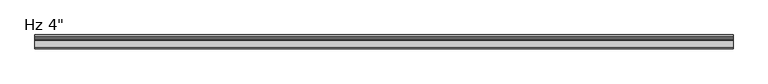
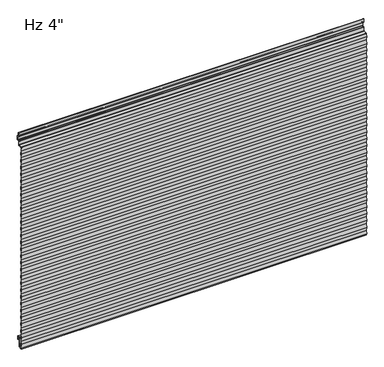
"""IFC4 building model written with IfcOpenShell, lengths in millimetres: plate geometry."""

from ifc_helpers import new_model, si_unit, point, frame, origin, place, context, project, spatial, polyline, circle_curve, ellipse_curve, trimmed, source, transform, mapped, element, save
from ifc_brep_helpers import plane_surface, cylinder_surface, revolved_surface, extruded_surface, advanced_brep


def plate_5e6ddfeb(model_context):
    return source(origin(), model_context, "Body", "AdvancedBrep", [
        advanced_brep(
        [(-730.0, -76.2, -23.2314549), (-730.0, -77.7875, -23.2314549), (-730.0, -77.7875, -11.9205174), (-730.0, -85.725, -11.9205174), (-730.0, -85.725, -50.1038221), (-730.0, -87.981625, -52.4818086), (-730.0, -102.1543553, -53.22457), (-730.0, -102.8509395, -48.8709186), (-730.0, -100.4125395, -33.6309186), (-730.0, -102.8509395, -18.3909186), (-730.0, -100.4125395, -3.1509186), (-730.0, -102.8509395, 12.0890814), (-730.0, -100.4125395, 27.3290814), (-730.0, -102.8509395, 42.5690814), (-730.0, -100.4125395, 57.8090814), (-730.0, -102.8509395, 73.0490814), (-730.0, -100.4125395, 88.2890814), (-730.0, -102.8509395, 103.5290814), (-730.0, -100.4125395, 118.7690814), (-730.0, -102.8509395, 134.0090814), (-730.0, -100.4125395, 149.2490814), (-730.0, -102.8509395, 164.4890814), (-730.0, -100.4125395, 179.7290814), (-730.0, -102.8509395, 194.9690814), (-730.0, -100.4125395, 210.2090814), (-730.0, -102.8509395, 225.4490814), (-730.0, -100.4125395, 240.6890814), (-730.0, -102.8509395, 255.9290814), (-730.0, -100.4125395, 271.1690814), (-730.0, -102.8509395, 286.4090814), (-730.0, -100.4125395, 301.6490814), (-730.0, -102.8509395, 316.8890814), (-730.0, -100.4125395, 332.1290814), (-730.0, -102.8509395, 347.3690814), (-730.0, -100.4125395, 362.6090814), (-730.0, -102.8509395, 377.8490814), (-730.0, -100.4125395, 393.0890814), (-730.0, -102.8509395, 408.3290814), (-730.0, -100.4125395, 423.5690814), (-730.0, -102.8509395, 438.8090814), (-730.0, -100.4125395, 454.0490814), (-730.0, -102.8509395, 469.2890814), (-730.0, -100.4125395, 484.5290814), (-730.0, -102.8509395, 499.7690814), (-730.0, -100.4125395, 515.0090814), (-730.0, -102.8509395, 530.2490814), (-730.0, -100.4125395, 545.4890814), (-730.0, -102.8509395, 560.7290814), (-730.0, -100.4125395, 575.9690814), (-730.0, -102.8509395, 591.2090814), (-730.0, -100.4125395, 606.4490814), (-730.0, -102.8509395, 621.6890814), (-730.0, -100.4125395, 636.9290814), (-730.0, -102.8509395, 652.1690814), (-730.0, -100.4125395, 667.4090814), (-730.0, -102.8509395, 682.6490814), (-730.0, -100.4125395, 697.8890814), (-730.0, -102.8509395, 713.1290814), (-730.0, -100.4125395, 728.3690814), (-730.0, -102.8509395, 743.6090814), (-730.0, -100.4125395, 758.8490814), (-730.0, -102.8509395, 774.0890814), (-730.0, -100.4125395, 789.3290814), (-730.0, -102.8509395, 804.5690814), (-730.0, -100.4125395, 819.8090814), (-730.0, -102.8185287, 834.8465139), (-730.0, -100.8278537, 847.2882328), (-730.0, -99.343375, 848.6227473), (-730.0, -85.6419167, 849.3408103), (-730.0, -84.1375, 850.9261347), (-730.0, -84.1375, 865.0824411), (-730.0, -81.880875, 867.4604276), (-730.0, -76.1169167, 867.7625039), (-730.0, -74.6125, 869.3478283), (-730.0, -74.6125, 884.2232326), (-730.0, -76.2, 885.8107326), (-730.0, -80.3671875, 885.8107326), (-730.0, -82.7484375, 888.1919826), (-730.0, -82.7484375, 902.6836032), (-730.0, -80.9546875, 902.6836032), (-730.0, -80.9546875, 892.9544826), (-730.0, -81.7484375, 892.9544826), (-730.0, -81.7484375, 888.1919826), (-730.0, -80.3671875, 886.8107326), (-730.0, -76.2, 886.8107326), (-730.0, -73.6125, 884.2232326), (-730.0, -73.6125, 869.3478283), (-730.0, -76.0645807, 866.7638744), (-730.0, -81.828539, 866.4617981), (-730.0, -83.1375, 865.0824411), (-730.0, -83.1375, 850.9261347), (-730.0, -85.5895807, 848.3421807), (-730.0, -99.291039, 847.6241177), (-730.0, -99.840413, 847.1302423), (-730.0, -101.8058096, 834.8465139), (-730.0, -99.3998204, 819.8090814), (-730.0, -101.8382204, 804.5690814), (-730.0, -99.3998204, 789.3290814), (-730.0, -101.8382204, 774.0890814), (-730.0, -99.3998204, 758.8490814), (-730.0, -101.8382204, 743.6090814), (-730.0, -99.3998204, 728.3690814), (-730.0, -101.8382204, 713.1290814), (-730.0, -99.3998204, 697.8890814), (-730.0, -101.8382204, 682.6490814), (-730.0, -99.3998204, 667.4090814), (-730.0, -101.8382204, 652.1690814), (-730.0, -99.3998204, 636.9290814), (-730.0, -101.8382204, 621.6890814), (-730.0, -99.3998204, 606.4490814), (-730.0, -101.8382204, 591.2090814), (-730.0, -99.3998204, 575.9690814), (-730.0, -101.8382204, 560.7290814), (-730.0, -99.3998204, 545.4890814), (-730.0, -101.8382204, 530.2490814), (-730.0, -99.3998204, 515.0090814), (-730.0, -101.8382204, 499.7690814), (-730.0, -99.3998204, 484.5290814), (-730.0, -101.8382204, 469.2890814), (-730.0, -99.3998204, 454.0490814), (-730.0, -101.8382204, 438.8090814), (-730.0, -99.3998204, 423.5690814), (-730.0, -101.8382204, 408.3290814), (-730.0, -99.3998204, 393.0890814), (-730.0, -101.8382204, 377.8490814), (-730.0, -99.3998204, 362.6090814), (-730.0, -101.8382204, 347.3690814), (-730.0, -99.3998204, 332.1290814), (-730.0, -101.8382204, 316.8890814), (-730.0, -99.3998204, 301.6490814), (-730.0, -101.8382204, 286.4090814), (-730.0, -99.3998204, 271.1690814), (-730.0, -101.8382204, 255.9290814), (-730.0, -99.3998204, 240.6890814), (-730.0, -101.8382204, 225.4490814), (-730.0, -99.3998204, 210.2090814), (-730.0, -101.8382204, 194.9690814), (-730.0, -99.3998204, 179.7290814), (-730.0, -101.8382204, 164.4890814), (-730.0, -99.3998204, 149.2490814), (-730.0, -101.8382204, 134.0090814), (-730.0, -99.3998204, 118.7690814), (-730.0, -101.8382204, 103.5290814), (-730.0, -99.3998204, 88.2890814), (-730.0, -101.8382204, 73.0490814), (-730.0, -99.3998204, 57.8090814), (-730.0, -101.8382204, 42.5690814), (-730.0, -99.3998204, 27.3290814), (-730.0, -101.8382204, 12.0890814), (-730.0, -99.3998204, -3.1509186), (-730.0, -101.8382204, -18.3909186), (-730.0, -99.3998204, -33.6309186), (-730.0, -101.8382204, -48.8709186), (-730.0, -101.3089447, -52.1788915), (-730.0, -88.033961, -51.4831791), (-730.0, -86.725, -50.1038221), (-730.0, -86.725, -11.9205174), (-730.0, -76.7875, -11.9205174), (-730.0, -76.99375, -13.5080174), (-730.0, -76.2, -13.5080174), (730.0, -76.2, -23.2314549), (730.0, -76.2, -13.5080174), (730.0, -76.99375, -13.5080174), (730.0, -76.7875, -11.9205174), (730.0, -86.725, -11.9205174), (730.0, -86.725, -50.1038221), (730.0, -88.033961, -51.4831791), (730.0, -101.3089447, -52.1788915), (730.0, -101.8382204, -48.8709186), (730.0, -99.3998204, -33.6309186), (730.0, -101.8382204, -18.3909186), (730.0, -99.3998204, -3.1509186), (730.0, -101.8382204, 12.0890814), (730.0, -99.3998204, 27.3290814), (730.0, -101.8382204, 42.5690814), (730.0, -99.3998204, 57.8090814), (730.0, -101.8382204, 73.0490814), (730.0, -99.3998204, 88.2890814), (730.0, -101.8382204, 103.5290814), (730.0, -99.3998204, 118.7690814), (730.0, -101.8382204, 134.0090814), (730.0, -99.3998204, 149.2490814), (730.0, -101.8382204, 164.4890814), (730.0, -99.3998204, 179.7290814), (730.0, -101.8382204, 194.9690814), (730.0, -99.3998204, 210.2090814), (730.0, -101.8382204, 225.4490814), (730.0, -99.3998204, 240.6890814), (730.0, -101.8382204, 255.9290814), (730.0, -99.3998204, 271.1690814), (730.0, -101.8382204, 286.4090814), (730.0, -99.3998204, 301.6490814), (730.0, -101.8382204, 316.8890814), (730.0, -99.3998204, 332.1290814), (730.0, -101.8382204, 347.3690814), (730.0, -99.3998204, 362.6090814), (730.0, -101.8382204, 377.8490814), (730.0, -99.3998204, 393.0890814), (730.0, -101.8382204, 408.3290814), (730.0, -99.3998204, 423.5690814), (730.0, -101.8382204, 438.8090814), (730.0, -99.3998204, 454.0490814), (730.0, -101.8382204, 469.2890814), (730.0, -99.3998204, 484.5290814), (730.0, -101.8382204, 499.7690814), (730.0, -99.3998204, 515.0090814), (730.0, -101.8382204, 530.2490814), (730.0, -99.3998204, 545.4890814), (730.0, -101.8382204, 560.7290814), (730.0, -99.3998204, 575.9690814), (730.0, -101.8382204, 591.2090814), (730.0, -99.3998204, 606.4490814), (730.0, -101.8382204, 621.6890814), (730.0, -99.3998204, 636.9290814), (730.0, -101.8382204, 652.1690814), (730.0, -99.3998204, 667.4090814), (730.0, -101.8382204, 682.6490814), (730.0, -99.3998204, 697.8890814), (730.0, -101.8382204, 713.1290814), (730.0, -99.3998204, 728.3690814), (730.0, -101.8382204, 743.6090814), (730.0, -99.3998204, 758.8490814), (730.0, -101.8382204, 774.0890814), (730.0, -99.3998204, 789.3290814), (730.0, -101.8382204, 804.5690814), (730.0, -99.3998204, 819.8090814), (730.0, -101.8058096, 834.8465139), (730.0, -99.840413, 847.1302423), (730.0, -99.291039, 847.6241177), (730.0, -85.5895807, 848.3421807), (730.0, -83.1375, 850.9261347), (730.0, -83.1375, 865.0824411), (730.0, -81.828539, 866.4617981), (730.0, -76.0645807, 866.7638744), (730.0, -73.6125, 869.3478283), (730.0, -73.6125, 884.2232326), (730.0, -76.2, 886.8107326), (730.0, -80.3671875, 886.8107326), (730.0, -81.7484375, 888.1919826), (730.0, -81.7484375, 892.9544826), (730.0, -80.9546875, 892.9544826), (730.0, -80.9546875, 902.6836032), (730.0, -82.7484375, 902.6836032), (730.0, -82.7484375, 888.1919826), (730.0, -80.3671875, 885.8107326), (730.0, -76.2, 885.8107326), (730.0, -74.6125, 884.2232326), (730.0, -74.6125, 869.3478283), (730.0, -76.1169167, 867.7625039), (730.0, -81.880875, 867.4604276), (730.0, -84.1375, 865.0824411), (730.0, -84.1375, 850.9261347), (730.0, -85.6419167, 849.3408103), (730.0, -99.343375, 848.6227473), (730.0, -100.8278537, 847.2882328), (730.0, -102.8185287, 834.8465139), (730.0, -100.4125395, 819.8090814), (730.0, -102.8509395, 804.5690814), (730.0, -100.4125395, 789.3290814), (730.0, -102.8509395, 774.0890814), (730.0, -100.4125395, 758.8490814), (730.0, -102.8509395, 743.6090814), (730.0, -100.4125395, 728.3690814), (730.0, -102.8509395, 713.1290814), (730.0, -100.4125395, 697.8890814), (730.0, -102.8509395, 682.6490814), (730.0, -100.4125395, 667.4090814), (730.0, -102.8509395, 652.1690814), (730.0, -100.4125395, 636.9290814), (730.0, -102.8509395, 621.6890814), (730.0, -100.4125395, 606.4490814), (730.0, -102.8509395, 591.2090814), (730.0, -100.4125395, 575.9690814), (730.0, -102.8509395, 560.7290814), (730.0, -100.4125395, 545.4890814), (730.0, -102.8509395, 530.2490814), (730.0, -100.4125395, 515.0090814), (730.0, -102.8509395, 499.7690814), (730.0, -100.4125395, 484.5290814), (730.0, -102.8509395, 469.2890814), (730.0, -100.4125395, 454.0490814), (730.0, -102.8509395, 438.8090814), (730.0, -100.4125395, 423.5690814), (730.0, -102.8509395, 408.3290814), (730.0, -100.4125395, 393.0890814), (730.0, -102.8509395, 377.8490814), (730.0, -100.4125395, 362.6090814), (730.0, -102.8509395, 347.3690814), (730.0, -100.4125395, 332.1290814), (730.0, -102.8509395, 316.8890814), (730.0, -100.4125395, 301.6490814), (730.0, -102.8509395, 286.4090814), (730.0, -100.4125395, 271.1690814), (730.0, -102.8509395, 255.9290814), (730.0, -100.4125395, 240.6890814), (730.0, -102.8509395, 225.4490814), (730.0, -100.4125395, 210.2090814), (730.0, -102.8509395, 194.9690814), (730.0, -100.4125395, 179.7290814), (730.0, -102.8509395, 164.4890814), (730.0, -100.4125395, 149.2490814), (730.0, -102.8509395, 134.0090814), (730.0, -100.4125395, 118.7690814), (730.0, -102.8509395, 103.5290814), (730.0, -100.4125395, 88.2890814), (730.0, -102.8509395, 73.0490814), (730.0, -100.4125395, 57.8090814), (730.0, -102.8509395, 42.5690814), (730.0, -100.4125395, 27.3290814), (730.0, -102.8509395, 12.0890814), (730.0, -100.4125395, -3.1509186), (730.0, -102.8509395, -18.3909186), (730.0, -100.4125395, -33.6309186), (730.0, -102.8509395, -48.8709186), (730.0, -102.1543553, -53.22457), (730.0, -87.981625, -52.4818086), (730.0, -85.725, -50.1038221), (730.0, -85.725, -11.9205174), (730.0, -77.7875, -11.9205174), (730.0, -77.7875, -23.2314549)],
        [
            (0, 1, circle_curve(frame((-730.0, -76.99375, -23.2314549), z_axis=(-1.0, 0.0, 0.0), x_axis=(0.0, 0.0, 1.0)), 0.79375)),
            (1, 2),
            (2, 3, circle_curve(frame((-730.0, -81.75625, -11.9205174), z_axis=(1.0, 0.0, 0.0), x_axis=(0.0, 0.0, 1.0)), 3.96875)),
            (3, 4),
            (4, 5, circle_curve(frame((-730.0, -88.10625, -50.1038221), z_axis=(-1.0, 0.0, 0.0), x_axis=(0.0, 0.0, 1.0)), 2.38125)),
            (5, 6),
            (6, 7),
            (7, 8),
            (8, 9),
            (9, 10),
            (10, 11),
            (11, 12),
            (12, 13),
            (13, 14),
            (14, 15),
            (15, 16),
            (16, 17),
            (17, 18),
            (18, 19),
            (19, 20),
            (20, 21),
            (21, 22),
            (22, 23),
            (23, 24),
            (24, 25),
            (25, 26),
            (26, 27),
            (27, 28),
            (28, 29),
            (29, 30),
            (30, 31),
            (31, 32),
            (32, 33),
            (33, 34),
            (34, 35),
            (35, 36),
            (36, 37),
            (37, 38),
            (38, 39),
            (39, 40),
            (40, 41),
            (41, 42),
            (42, 43),
            (43, 44),
            (44, 45),
            (45, 46),
            (46, 47),
            (47, 48),
            (48, 49),
            (49, 50),
            (50, 51),
            (51, 52),
            (52, 53),
            (53, 54),
            (54, 55),
            (55, 56),
            (56, 57),
            (57, 58),
            (58, 59),
            (59, 60),
            (60, 61),
            (61, 62),
            (62, 63),
            (63, 64),
            (64, 65),
            (65, 66),
            (66, 67, circle_curve(frame((-730.0, -99.2602917, 847.0374229), z_axis=(-1.0, 0.0, 0.0), x_axis=(0.0, 0.0, 1.0)), 1.5875)),
            (67, 68),
            (68, 69, circle_curve(frame((-730.0, -85.725, 850.9261347), z_axis=(1.0, 0.0, 0.0), x_axis=(0.0, 0.0, 1.0)), 1.5875)),
            (69, 70),
            (70, 71, circle_curve(frame((-730.0, -81.75625, 865.0824411), z_axis=(-1.0, 0.0, 0.0), x_axis=(0.0, 0.0, 1.0)), 2.38125)),
            (71, 72),
            (72, 73, circle_curve(frame((-730.0, -76.2, 869.3478283), z_axis=(1.0, 0.0, 0.0), x_axis=(0.0, 0.0, 1.0)), 1.5875)),
            (73, 74),
            (74, 75, circle_curve(frame((-730.0, -76.2, 884.2232326), z_axis=(1.0, 0.0, 0.0), x_axis=(0.0, 0.0, 1.0)), 1.5875)),
            (75, 76),
            (76, 77, circle_curve(frame((-730.0, -80.3671875, 888.1919826), z_axis=(-1.0, 0.0, 0.0), x_axis=(0.0, 0.0, 1.0)), 2.38125)),
            (77, 78),
            (78, 79, ellipse_curve(frame((-730.0, -81.8515625, 902.6836032), z_axis=(-1.0, 0.0, 0.0), x_axis=(0.0, 1.0, 0.0)), 0.896875, 0.7852275)),
            (79, 80),
            (80, 81),
            (81, 82),
            (82, 83, circle_curve(frame((-730.0, -80.3671875, 888.1919826), z_axis=(1.0, 0.0, 0.0), x_axis=(0.0, 0.0, 1.0)), 1.38125)),
            (83, 84),
            (84, 85, circle_curve(frame((-730.0, -76.2, 884.2232326), z_axis=(-1.0, 0.0, 0.0), x_axis=(0.0, 0.0, 1.0)), 2.5875)),
            (85, 86),
            (86, 87, circle_curve(frame((-730.0, -76.2, 869.3478283), z_axis=(-1.0, 0.0, 0.0), x_axis=(0.0, 0.0, 1.0)), 2.5875)),
            (87, 88),
            (88, 89, circle_curve(frame((-730.0, -81.75625, 865.0824411), z_axis=(1.0, 0.0, 0.0), x_axis=(0.0, 0.0, 1.0)), 1.38125)),
            (89, 90),
            (90, 91, circle_curve(frame((-730.0, -85.725, 850.9261347), z_axis=(-1.0, 0.0, 0.0), x_axis=(0.0, 0.0, 1.0)), 2.5875)),
            (91, 92),
            (92, 93, circle_curve(frame((-730.0, -99.2602917, 847.0374229), z_axis=(1.0, 0.0, 0.0), x_axis=(0.0, 0.0, 1.0)), 0.5875)),
            (93, 94),
            (94, 95),
            (95, 96),
            (96, 97),
            (97, 98),
            (98, 99),
            (99, 100),
            (100, 101),
            (101, 102),
            (102, 103),
            (103, 104),
            (104, 105),
            (105, 106),
            (106, 107),
            (107, 108),
            (108, 109),
            (109, 110),
            (110, 111),
            (111, 112),
            (112, 113),
            (113, 114),
            (114, 115),
            (115, 116),
            (116, 117),
            (117, 118),
            (118, 119),
            (119, 120),
            (120, 121),
            (121, 122),
            (122, 123),
            (123, 124),
            (124, 125),
            (125, 126),
            (126, 127),
            (127, 128),
            (128, 129),
            (129, 130),
            (130, 131),
            (131, 132),
            (132, 133),
            (133, 134),
            (134, 135),
            (135, 136),
            (136, 137),
            (137, 138),
            (138, 139),
            (139, 140),
            (140, 141),
            (141, 142),
            (142, 143),
            (143, 144),
            (144, 145),
            (145, 146),
            (146, 147),
            (147, 148),
            (148, 149),
            (149, 150),
            (150, 151),
            (151, 152),
            (152, 153),
            (153, 154),
            (154, 155, circle_curve(frame((-730.0, -88.10625, -50.1038221), z_axis=(1.0, 0.0, 0.0), x_axis=(0.0, 0.0, 1.0)), 1.38125)),
            (155, 156),
            (156, 157, circle_curve(frame((-730.0, -81.75625, -11.9205174), z_axis=(-1.0, 0.0, 0.0), x_axis=(0.0, 0.0, 1.0)), 4.96875)),
            (157, 158),
            (158, 159),
            (159, 0),
            (160, 161),
            (161, 162),
            (162, 163),
            (163, 164, circle_curve(frame((730.0, -81.75625, -11.9205174), z_axis=(1.0, 0.0, 0.0), x_axis=(0.0, 0.0, 1.0)), 4.96875)),
            (164, 165),
            (165, 166, circle_curve(frame((730.0, -88.10625, -50.1038221), z_axis=(-1.0, 0.0, 0.0), x_axis=(0.0, 0.0, 1.0)), 1.38125)),
            (166, 167),
            (167, 168),
            (168, 169),
            (169, 170),
            (170, 171),
            (171, 172),
            (172, 173),
            (173, 174),
            (174, 175),
            (175, 176),
            (176, 177),
            (177, 178),
            (178, 179),
            (179, 180),
            (180, 181),
            (181, 182),
            (182, 183),
            (183, 184),
            (184, 185),
            (185, 186),
            (186, 187),
            (187, 188),
            (188, 189),
            (189, 190),
            (190, 191),
            (191, 192),
            (192, 193),
            (193, 194),
            (194, 195),
            (195, 196),
            (196, 197),
            (197, 198),
            (198, 199),
            (199, 200),
            (200, 201),
            (201, 202),
            (202, 203),
            (203, 204),
            (204, 205),
            (205, 206),
            (206, 207),
            (207, 208),
            (208, 209),
            (209, 210),
            (210, 211),
            (211, 212),
            (212, 213),
            (213, 214),
            (214, 215),
            (215, 216),
            (216, 217),
            (217, 218),
            (218, 219),
            (219, 220),
            (220, 221),
            (221, 222),
            (222, 223),
            (223, 224),
            (224, 225),
            (225, 226),
            (226, 227),
            (227, 228, circle_curve(frame((730.0, -99.2602917, 847.0374229), z_axis=(-1.0, 0.0, 0.0), x_axis=(0.0, 0.0, 1.0)), 0.5875)),
            (228, 229),
            (229, 230, circle_curve(frame((730.0, -85.725, 850.9261347), z_axis=(1.0, 0.0, 0.0), x_axis=(0.0, 0.0, 1.0)), 2.5875)),
            (230, 231),
            (231, 232, circle_curve(frame((730.0, -81.75625, 865.0824411), z_axis=(-1.0, 0.0, 0.0), x_axis=(0.0, 0.0, 1.0)), 1.38125)),
            (232, 233),
            (233, 234, circle_curve(frame((730.0, -76.2, 869.3478283), z_axis=(1.0, 0.0, 0.0), x_axis=(0.0, 0.0, 1.0)), 2.5875)),
            (234, 235),
            (235, 236, circle_curve(frame((730.0, -76.2, 884.2232326), z_axis=(1.0, 0.0, 0.0), x_axis=(0.0, 0.0, 1.0)), 2.5875)),
            (236, 237),
            (237, 238, circle_curve(frame((730.0, -80.3671875, 888.1919826), z_axis=(-1.0, 0.0, 0.0), x_axis=(0.0, 0.0, 1.0)), 1.38125)),
            (238, 239),
            (239, 240),
            (240, 241),
            (241, 242, ellipse_curve(frame((730.0, -81.8515625, 902.6836032), z_axis=(1.0, 0.0, 0.0), x_axis=(0.0, 1.0, 0.0)), 0.896875, 0.7852275)),
            (242, 243),
            (243, 244, circle_curve(frame((730.0, -80.3671875, 888.1919826), z_axis=(1.0, 0.0, 0.0), x_axis=(0.0, 0.0, 1.0)), 2.38125)),
            (244, 245),
            (245, 246, circle_curve(frame((730.0, -76.2, 884.2232326), z_axis=(-1.0, 0.0, 0.0), x_axis=(0.0, 0.0, 1.0)), 1.5875)),
            (246, 247),
            (247, 248, circle_curve(frame((730.0, -76.2, 869.3478283), z_axis=(-1.0, 0.0, 0.0), x_axis=(0.0, 0.0, 1.0)), 1.5875)),
            (248, 249),
            (249, 250, circle_curve(frame((730.0, -81.75625, 865.0824411), z_axis=(1.0, 0.0, 0.0), x_axis=(0.0, 0.0, 1.0)), 2.38125)),
            (250, 251),
            (251, 252, circle_curve(frame((730.0, -85.725, 850.9261347), z_axis=(-1.0, 0.0, 0.0), x_axis=(0.0, 0.0, 1.0)), 1.5875)),
            (252, 253),
            (253, 254, circle_curve(frame((730.0, -99.2602917, 847.0374229), z_axis=(1.0, 0.0, 0.0), x_axis=(0.0, 0.0, 1.0)), 1.5875)),
            (254, 255),
            (255, 256),
            (256, 257),
            (257, 258),
            (258, 259),
            (259, 260),
            (260, 261),
            (261, 262),
            (262, 263),
            (263, 264),
            (264, 265),
            (265, 266),
            (266, 267),
            (267, 268),
            (268, 269),
            (269, 270),
            (270, 271),
            (271, 272),
            (272, 273),
            (273, 274),
            (274, 275),
            (275, 276),
            (276, 277),
            (277, 278),
            (278, 279),
            (279, 280),
            (280, 281),
            (281, 282),
            (282, 283),
            (283, 284),
            (284, 285),
            (285, 286),
            (286, 287),
            (287, 288),
            (288, 289),
            (289, 290),
            (290, 291),
            (291, 292),
            (292, 293),
            (293, 294),
            (294, 295),
            (295, 296),
            (296, 297),
            (297, 298),
            (298, 299),
            (299, 300),
            (300, 301),
            (301, 302),
            (302, 303),
            (303, 304),
            (304, 305),
            (305, 306),
            (306, 307),
            (307, 308),
            (308, 309),
            (309, 310),
            (310, 311),
            (311, 312),
            (312, 313),
            (313, 314),
            (314, 315),
            (315, 316, circle_curve(frame((730.0, -88.10625, -50.1038221), z_axis=(1.0, 0.0, 0.0), x_axis=(0.0, 0.0, 1.0)), 2.38125)),
            (316, 317),
            (317, 318, circle_curve(frame((730.0, -81.75625, -11.9205174), z_axis=(-1.0, 0.0, 0.0), x_axis=(0.0, 0.0, 1.0)), 3.96875)),
            (318, 319),
            (319, 160, circle_curve(frame((730.0, -76.99375, -23.2314549), z_axis=(1.0, 0.0, 0.0), x_axis=(0.0, 0.0, 1.0)), 0.79375)),
            (108, 212),
            (211, 109),
            (210, 110),
            (209, 111),
            (208, 112),
            (207, 113),
            (206, 114),
            (205, 115),
            (204, 116),
            (203, 117),
            (202, 118),
            (201, 119),
            (200, 120),
            (199, 121),
            (153, 167),
            (166, 154),
            (165, 155),
            (164, 156),
            (163, 157),
            (158, 162),
            (161, 159),
            (80, 240),
            (239, 81),
            (79, 241),
            (78, 242),
            (67, 253),
            (252, 68),
            (91, 229),
            (228, 92),
            (64, 256),
            (255, 65),
            (94, 226),
            (225, 95),
            (224, 96),
            (223, 97),
            (222, 98),
            (221, 99),
            (220, 100),
            (219, 101),
            (218, 102),
            (217, 103),
            (216, 104),
            (215, 105),
            (214, 106),
            (213, 107),
            (24, 296),
            (295, 25),
            (294, 26),
            (293, 27),
            (292, 28),
            (291, 29),
            (290, 30),
            (289, 31),
            (288, 32),
            (287, 33),
            (286, 34),
            (285, 35),
            (284, 36),
            (137, 183),
            (182, 138),
            (181, 139),
            (180, 140),
            (179, 141),
            (178, 142),
            (58, 262),
            (261, 59),
            (260, 60),
            (259, 61),
            (258, 62),
            (257, 63),
            (254, 66),
            (227, 93),
            (123, 197),
            (196, 124),
            (195, 125),
            (194, 126),
            (193, 127),
            (192, 128),
            (191, 129),
            (190, 130),
            (189, 131),
            (188, 132),
            (187, 133),
            (186, 134),
            (185, 135),
            (184, 136),
            (22, 298),
            (297, 23),
            (15, 305),
            (304, 16),
            (13, 307),
            (306, 14),
            (146, 174),
            (173, 147),
            (144, 176),
            (175, 145),
            (12, 308),
            (21, 299),
            (19, 301),
            (300, 20),
            (143, 177),
            (17, 303),
            (302, 18),
            (56, 264),
            (263, 57),
            (54, 266),
            (265, 55),
            (52, 268),
            (267, 53),
            (50, 270),
            (269, 51),
            (48, 272),
            (271, 49),
            (46, 274),
            (273, 47),
            (44, 276),
            (275, 45),
            (42, 278),
            (277, 43),
            (40, 280),
            (279, 41),
            (38, 282),
            (281, 39),
            (283, 37),
            (10, 310),
            (309, 11),
            (8, 312),
            (311, 9),
            (6, 314),
            (313, 7),
            (151, 169),
            (168, 152),
            (149, 171),
            (170, 150),
            (172, 148),
            (198, 122),
            (90, 230),
            (88, 232),
            (231, 89),
            (86, 234),
            (233, 87),
            (82, 238),
            (237, 83),
            (84, 236),
            (235, 85),
            (77, 243),
            (75, 245),
            (244, 76),
            (73, 247),
            (246, 74),
            (71, 249),
            (248, 72),
            (69, 251),
            (250, 70),
            (5, 315),
            (3, 317),
            (316, 4),
            (1, 319),
            (318, 2),
            (160, 0),
        ],
        [
            plane_surface(frame((-730.0, -101.6, 457.2), z_axis=(-1.0, 0.0, 0.0), x_axis=(0.0, -1.0, 0.0))),
            plane_surface(frame((730.0, -101.6, 457.2), z_axis=(1.0, 0.0, 0.0), x_axis=(0.0, -1.0, 0.0))),
            plane_surface(frame((-730.0, -99.3998204, 606.4490814), z_axis=(0.0, 0.9874406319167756, 0.15799050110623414), x_axis=(1.0, 0.0, 0.0))),
            plane_surface(frame((-730.0, -101.8382204, 591.2090814), z_axis=(0.0, 0.987440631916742, -0.15799050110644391), x_axis=(1.0, 0.0, 0.0))),
            plane_surface(frame((-730.0, -99.3998204, 575.9690814), z_axis=(0.0, 0.987440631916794, 0.1579905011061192), x_axis=(1.0, 0.0, 0.0))),
            plane_surface(frame((-730.0, -101.8382204, 560.7290814), z_axis=(0.0, 0.987440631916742, -0.15799050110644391), x_axis=(1.0, 0.0, 0.0))),
            plane_surface(frame((-730.0, -99.3998204, 545.4890814), z_axis=(0.0, 0.9874406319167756, 0.15799050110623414), x_axis=(1.0, 0.0, 0.0))),
            plane_surface(frame((-730.0, -101.8382204, 530.2490814), z_axis=(0.0, 0.9874406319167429, -0.15799050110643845), x_axis=(1.0, 0.0, 0.0))),
            plane_surface(frame((-730.0, -99.3998204, 515.0090814), z_axis=(0.0, 0.9874406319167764, 0.15799050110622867), x_axis=(1.0, 0.0, 0.0))),
            plane_surface(frame((-730.0, -101.8382204, 499.7690814), z_axis=(0.0, 0.9874406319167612, -0.1579905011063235), x_axis=(1.0, 0.0, 0.0))),
            plane_surface(frame((-730.0, -99.3998204, 484.5290814), z_axis=(0.0, 0.9874406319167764, 0.15799050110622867), x_axis=(1.0, 0.0, 0.0))),
            plane_surface(frame((-730.0, -101.8382204, 469.2890814), z_axis=(0.0, 0.987440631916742, -0.15799050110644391), x_axis=(1.0, 0.0, 0.0))),
            plane_surface(frame((-730.0, -99.3998204, 454.0490814), z_axis=(0.0, 0.9874406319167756, 0.15799050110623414), x_axis=(1.0, 0.0, 0.0))),
            plane_surface(frame((-730.0, -101.8382204, 438.8090814), z_axis=(0.0, 0.987440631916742, -0.15799050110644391), x_axis=(1.0, 0.0, 0.0))),
            plane_surface(frame((-730.0, -99.3998204, 423.5690814), z_axis=(0.0, 0.987440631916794, 0.1579905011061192), x_axis=(1.0, 0.0, 0.0))),
            plane_surface(frame((-730.0, -88.033961, -51.4831791), z_axis=(0.0, -0.052335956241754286, 0.9986295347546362), x_axis=(1.0, 0.0, 0.0))),
            revolved_surface(polyline([(730.0, -88.10625, -48.7225721), (-730.0, -88.10625, -48.7225721)]), (-730.0, -88.10625, -50.1038221), (1.0, 0.0, 0.0)),
            plane_surface(frame((-730.0, -86.725, -11.9205174), z_axis=(0.0, -1.0, 0.0), x_axis=(1.0, 0.0, 0.0))),
            cylinder_surface(frame((-730.0, -81.75625, -11.9205174), z_axis=(-1.0, 0.0, 0.0), x_axis=(0.0, 0.0, 1.0)), 4.96875),
            plane_surface(frame((-730.0, -76.2, -13.5080174), z_axis=(0.0, 0.0, 1.0), x_axis=(1.0, 0.0, 0.0))),
            plane_surface(frame((-730.0, -76.99375, -13.5080174), z_axis=(0.0, 0.9916655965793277, -0.12883844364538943), x_axis=(1.0, 0.0, 0.0))),
            plane_surface(frame((-730.0, -81.7484375, 892.9544826), z_axis=(0.0, 0.0, -1.0), x_axis=(1.0, 0.0, 0.0))),
            plane_surface(frame((-730.0, -80.9546875, 892.9544826), z_axis=(0.0, 1.0, 0.0), x_axis=(1.0, 0.0, 0.0))),
            extruded_surface(trimmed(ellipse_curve(frame((-730.0, -81.8515625, 902.6836032), z_axis=(1.0, 0.0, 0.0), x_axis=(0.0, 1.0, 0.0)), 0.896875, 0.7852275), [point((-730.0, -80.9546875, 902.6836032))], [point((-730.0, -82.7484375, 902.6836032))], True, "CARTESIAN"), (1460.0, 0.0, 0.0), 1460.0),
            plane_surface(frame((-730.0, -85.6419167, 849.3408103), z_axis=(0.0, -0.052335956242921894, 0.998629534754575), x_axis=(1.0, 0.0, 0.0))),
            plane_surface(frame((-730.0, -99.291039, 847.6241177), z_axis=(0.0, 0.05233595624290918, -0.9986295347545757), x_axis=(1.0, 0.0, 0.0))),
            plane_surface(frame((-730.0, -102.8185287, 834.8465139), z_axis=(0.0, -0.9874406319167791, -0.15799050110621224), x_axis=(1.0, 0.0, 0.0))),
            plane_surface(frame((-730.0, -99.3998204, 819.8090814), z_axis=(0.0, 0.9874406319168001, 0.15799050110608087), x_axis=(1.0, 0.0, 0.0))),
            plane_surface(frame((-730.0, -101.8382204, 804.5690814), z_axis=(0.0, 0.9874406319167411, -0.15799050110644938), x_axis=(1.0, 0.0, 0.0))),
            plane_surface(frame((-730.0, -99.3998204, 789.3290814), z_axis=(0.0, 0.987440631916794, 0.1579905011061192), x_axis=(1.0, 0.0, 0.0))),
            plane_surface(frame((-730.0, -101.8382204, 774.0890814), z_axis=(0.0, 0.987440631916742, -0.15799050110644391), x_axis=(1.0, 0.0, 0.0))),
            plane_surface(frame((-730.0, -99.3998204, 758.8490814), z_axis=(0.0, 0.987440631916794, 0.1579905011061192), x_axis=(1.0, 0.0, 0.0))),
            plane_surface(frame((-730.0, -101.8382204, 743.6090814), z_axis=(0.0, 0.987440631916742, -0.15799050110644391), x_axis=(1.0, 0.0, 0.0))),
            plane_surface(frame((-730.0, -99.3998204, 728.3690814), z_axis=(0.0, 0.987440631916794, 0.1579905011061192), x_axis=(1.0, 0.0, 0.0))),
            plane_surface(frame((-730.0, -101.8382204, 713.1290814), z_axis=(0.0, 0.987440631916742, -0.15799050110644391), x_axis=(1.0, 0.0, 0.0))),
            plane_surface(frame((-730.0, -99.3998204, 697.8890814), z_axis=(0.0, 0.9874406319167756, 0.15799050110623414), x_axis=(1.0, 0.0, 0.0))),
            plane_surface(frame((-730.0, -101.8382204, 682.6490814), z_axis=(0.0, 0.9874406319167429, -0.15799050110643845), x_axis=(1.0, 0.0, 0.0))),
            plane_surface(frame((-730.0, -99.3998204, 667.4090814), z_axis=(0.0, 0.9874406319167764, 0.15799050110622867), x_axis=(1.0, 0.0, 0.0))),
            plane_surface(frame((-730.0, -101.8382204, 652.1690814), z_axis=(0.0, 0.9874406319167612, -0.1579905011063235), x_axis=(1.0, 0.0, 0.0))),
            plane_surface(frame((-730.0, -99.3998204, 636.9290814), z_axis=(0.0, 0.9874406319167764, 0.15799050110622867), x_axis=(1.0, 0.0, 0.0))),
            plane_surface(frame((-730.0, -101.8382204, 621.6890814), z_axis=(0.0, 0.987440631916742, -0.15799050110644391), x_axis=(1.0, 0.0, 0.0))),
            plane_surface(frame((-730.0, -102.8509395, 225.4490814), z_axis=(0.0, -0.9874406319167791, -0.15799050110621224), x_axis=(1.0, 0.0, 0.0))),
            plane_surface(frame((-730.0, -100.4125395, 240.6890814), z_axis=(0.0, -0.9874406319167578, 0.15799050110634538), x_axis=(1.0, 0.0, 0.0))),
            plane_surface(frame((-730.0, -102.8509395, 255.9290814), z_axis=(0.0, -0.9874406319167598, -0.15799050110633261), x_axis=(1.0, 0.0, 0.0))),
            plane_surface(frame((-730.0, -100.4125395, 271.1690814), z_axis=(0.0, -0.9874406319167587, 0.15799050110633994), x_axis=(1.0, 0.0, 0.0))),
            plane_surface(frame((-730.0, -102.8509395, 286.4090814), z_axis=(0.0, -0.9874406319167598, -0.15799050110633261), x_axis=(1.0, 0.0, 0.0))),
            plane_surface(frame((-730.0, -100.4125395, 301.6490814), z_axis=(0.0, -0.9874406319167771, 0.157990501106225), x_axis=(1.0, 0.0, 0.0))),
            plane_surface(frame((-730.0, -102.8509395, 316.8890814), z_axis=(0.0, -0.9874406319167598, -0.15799050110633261), x_axis=(1.0, 0.0, 0.0))),
            plane_surface(frame((-730.0, -100.4125395, 332.1290814), z_axis=(0.0, -0.9874406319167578, 0.15799050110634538), x_axis=(1.0, 0.0, 0.0))),
            plane_surface(frame((-730.0, -102.8509395, 347.3690814), z_axis=(0.0, -0.9874406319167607, -0.15799050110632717), x_axis=(1.0, 0.0, 0.0))),
            plane_surface(frame((-730.0, -100.4125395, 362.6090814), z_axis=(0.0, -0.9874406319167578, 0.15799050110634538), x_axis=(1.0, 0.0, 0.0))),
            plane_surface(frame((-730.0, -102.8509395, 377.8490814), z_axis=(0.0, -0.9874406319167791, -0.15799050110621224), x_axis=(1.0, 0.0, 0.0))),
            plane_surface(frame((-730.0, -100.4125395, 393.0890814), z_axis=(0.0, -0.9874406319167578, 0.15799050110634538), x_axis=(1.0, 0.0, 0.0))),
            plane_surface(frame((-730.0, -101.8382204, 164.4890814), z_axis=(0.0, 0.987440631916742, -0.15799050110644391), x_axis=(1.0, 0.0, 0.0))),
            plane_surface(frame((-730.0, -99.3998204, 149.2490814), z_axis=(0.0, 0.9874406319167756, 0.15799050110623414), x_axis=(1.0, 0.0, 0.0))),
            plane_surface(frame((-730.0, -101.8382204, 134.0090814), z_axis=(0.0, 0.987440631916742, -0.15799050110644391), x_axis=(1.0, 0.0, 0.0))),
            plane_surface(frame((-730.0, -99.3998204, 118.7690814), z_axis=(0.0, 0.987440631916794, 0.1579905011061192), x_axis=(1.0, 0.0, 0.0))),
            plane_surface(frame((-730.0, -101.8382204, 103.5290814), z_axis=(0.0, 0.987440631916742, -0.15799050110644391), x_axis=(1.0, 0.0, 0.0))),
            plane_surface(frame((-730.0, -102.8509395, 743.6090814), z_axis=(0.0, -0.9874406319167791, -0.15799050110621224), x_axis=(1.0, 0.0, 0.0))),
            plane_surface(frame((-730.0, -100.4125395, 758.8490814), z_axis=(0.0, -0.9874406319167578, 0.15799050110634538), x_axis=(1.0, 0.0, 0.0))),
            plane_surface(frame((-730.0, -102.8509395, 774.0890814), z_axis=(0.0, -0.9874406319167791, -0.15799050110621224), x_axis=(1.0, 0.0, 0.0))),
            plane_surface(frame((-730.0, -100.4125395, 789.3290814), z_axis=(0.0, -0.9874406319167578, 0.15799050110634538), x_axis=(1.0, 0.0, 0.0))),
            plane_surface(frame((-730.0, -102.8509395, 804.5690814), z_axis=(0.0, -0.9874406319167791, -0.15799050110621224), x_axis=(1.0, 0.0, 0.0))),
            plane_surface(frame((-730.0, -100.4125395, 819.8090814), z_axis=(0.0, -0.9874406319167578, 0.15799050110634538), x_axis=(1.0, 0.0, 0.0))),
            plane_surface(frame((-730.0, -100.8278537, 847.2882328), z_axis=(0.0, -0.9874406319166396, 0.15799050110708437), x_axis=(1.0, 0.0, 0.0))),
            cylinder_surface(frame((-730.0, -99.2602917, 847.0374229), z_axis=(-1.0, 0.0, 0.0), x_axis=(0.0, 0.0, 1.0)), 1.5875),
            revolved_surface(polyline([(730.0, -99.2602917, 847.6249229), (-730.0, -99.2602917, 847.6249229)]), (-730.0, -99.2602917, 847.0374229), (1.0, 0.0, 0.0)),
            plane_surface(frame((-730.0, -101.8058096, 834.8465139), z_axis=(0.0, 0.9874406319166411, -0.15799050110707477), x_axis=(1.0, 0.0, 0.0))),
            plane_surface(frame((-730.0, -101.8382204, 377.8490814), z_axis=(0.0, 0.987440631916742, -0.15799050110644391), x_axis=(1.0, 0.0, 0.0))),
            plane_surface(frame((-730.0, -99.3998204, 362.6090814), z_axis=(0.0, 0.987440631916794, 0.1579905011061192), x_axis=(1.0, 0.0, 0.0))),
            plane_surface(frame((-730.0, -101.8382204, 347.3690814), z_axis=(0.0, 0.987440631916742, -0.15799050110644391), x_axis=(1.0, 0.0, 0.0))),
            plane_surface(frame((-730.0, -99.3998204, 332.1290814), z_axis=(0.0, 0.9874406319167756, 0.15799050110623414), x_axis=(1.0, 0.0, 0.0))),
            plane_surface(frame((-730.0, -101.8382204, 316.8890814), z_axis=(0.0, 0.9874406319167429, -0.15799050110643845), x_axis=(1.0, 0.0, 0.0))),
            plane_surface(frame((-730.0, -99.3998204, 301.6490814), z_axis=(0.0, 0.9874406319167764, 0.15799050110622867), x_axis=(1.0, 0.0, 0.0))),
            plane_surface(frame((-730.0, -101.8382204, 286.4090814), z_axis=(0.0, 0.9874406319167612, -0.1579905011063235), x_axis=(1.0, 0.0, 0.0))),
            plane_surface(frame((-730.0, -99.3998204, 271.1690814), z_axis=(0.0, 0.9874406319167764, 0.15799050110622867), x_axis=(1.0, 0.0, 0.0))),
            plane_surface(frame((-730.0, -101.8382204, 255.9290814), z_axis=(0.0, 0.987440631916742, -0.15799050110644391), x_axis=(1.0, 0.0, 0.0))),
            plane_surface(frame((-730.0, -99.3998204, 240.6890814), z_axis=(0.0, 0.9874406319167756, 0.15799050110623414), x_axis=(1.0, 0.0, 0.0))),
            plane_surface(frame((-730.0, -101.8382204, 225.4490814), z_axis=(0.0, 0.987440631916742, -0.15799050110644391), x_axis=(1.0, 0.0, 0.0))),
            plane_surface(frame((-730.0, -99.3998204, 210.2090814), z_axis=(0.0, 0.987440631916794, 0.1579905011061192), x_axis=(1.0, 0.0, 0.0))),
            plane_surface(frame((-730.0, -101.8382204, 194.9690814), z_axis=(0.0, 0.987440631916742, -0.15799050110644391), x_axis=(1.0, 0.0, 0.0))),
            plane_surface(frame((-730.0, -99.3998204, 179.7290814), z_axis=(0.0, 0.9874406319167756, 0.15799050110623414), x_axis=(1.0, 0.0, 0.0))),
            plane_surface(frame((-730.0, -102.8509395, 194.9690814), z_axis=(0.0, -0.9874406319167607, -0.15799050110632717), x_axis=(1.0, 0.0, 0.0))),
            plane_surface(frame((-730.0, -100.4125395, 210.2090814), z_axis=(0.0, -0.9874406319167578, 0.15799050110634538), x_axis=(1.0, 0.0, 0.0))),
            plane_surface(frame((-730.0, -100.4125395, 88.2890814), z_axis=(0.0, -0.9874406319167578, 0.15799050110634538), x_axis=(1.0, 0.0, 0.0))),
            plane_surface(frame((-730.0, -100.4125395, 57.8090814), z_axis=(0.0, -0.9874406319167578, 0.15799050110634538), x_axis=(1.0, 0.0, 0.0))),
            plane_surface(frame((-730.0, -102.8509395, 73.0490814), z_axis=(0.0, -0.9874406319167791, -0.15799050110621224), x_axis=(1.0, 0.0, 0.0))),
            plane_surface(frame((-730.0, -99.3998204, 27.3290814), z_axis=(0.0, 0.9874406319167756, 0.15799050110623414), x_axis=(1.0, 0.0, 0.0))),
            plane_surface(frame((-730.0, -99.3998204, 57.8090814), z_axis=(0.0, 0.987440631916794, 0.1579905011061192), x_axis=(1.0, 0.0, 0.0))),
            plane_surface(frame((-730.0, -101.8382204, 42.5690814), z_axis=(0.0, 0.987440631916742, -0.15799050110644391), x_axis=(1.0, 0.0, 0.0))),
            plane_surface(frame((-730.0, -102.8509395, 42.5690814), z_axis=(0.0, -0.9874406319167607, -0.15799050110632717), x_axis=(1.0, 0.0, 0.0))),
            plane_surface(frame((-730.0, -100.4125395, 179.7290814), z_axis=(0.0, -0.9874406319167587, 0.15799050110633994), x_axis=(1.0, 0.0, 0.0))),
            plane_surface(frame((-730.0, -100.4125395, 149.2490814), z_axis=(0.0, -0.9874406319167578, 0.15799050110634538), x_axis=(1.0, 0.0, 0.0))),
            plane_surface(frame((-730.0, -102.8509395, 164.4890814), z_axis=(0.0, -0.9874406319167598, -0.15799050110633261), x_axis=(1.0, 0.0, 0.0))),
            plane_surface(frame((-730.0, -101.8382204, 73.0490814), z_axis=(0.0, 0.987440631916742, -0.15799050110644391), x_axis=(1.0, 0.0, 0.0))),
            plane_surface(frame((-730.0, -100.4125395, 118.7690814), z_axis=(0.0, -0.9874406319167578, 0.15799050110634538), x_axis=(1.0, 0.0, 0.0))),
            plane_surface(frame((-730.0, -99.3998204, 88.2890814), z_axis=(0.0, 0.9874406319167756, 0.15799050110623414), x_axis=(1.0, 0.0, 0.0))),
            plane_surface(frame((-730.0, -102.8509395, 103.5290814), z_axis=(0.0, -0.9874406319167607, -0.15799050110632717), x_axis=(1.0, 0.0, 0.0))),
            plane_surface(frame((-730.0, -102.8509395, 134.0090814), z_axis=(0.0, -0.9874406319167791, -0.15799050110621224), x_axis=(1.0, 0.0, 0.0))),
            plane_surface(frame((-730.0, -102.8509395, 713.1290814), z_axis=(0.0, -0.9874406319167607, -0.15799050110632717), x_axis=(1.0, 0.0, 0.0))),
            plane_surface(frame((-730.0, -102.8509395, 682.6490814), z_axis=(0.0, -0.9874406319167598, -0.15799050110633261), x_axis=(1.0, 0.0, 0.0))),
            plane_surface(frame((-730.0, -100.4125395, 697.8890814), z_axis=(0.0, -0.9874406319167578, 0.15799050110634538), x_axis=(1.0, 0.0, 0.0))),
            plane_surface(frame((-730.0, -100.4125395, 728.3690814), z_axis=(0.0, -0.9874406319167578, 0.15799050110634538), x_axis=(1.0, 0.0, 0.0))),
            plane_surface(frame((-730.0, -102.8509395, 652.1690814), z_axis=(0.0, -0.9874406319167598, -0.15799050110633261), x_axis=(1.0, 0.0, 0.0))),
            plane_surface(frame((-730.0, -102.8509395, 621.6890814), z_axis=(0.0, -0.9874406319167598, -0.15799050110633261), x_axis=(1.0, 0.0, 0.0))),
            plane_surface(frame((-730.0, -100.4125395, 636.9290814), z_axis=(0.0, -0.9874406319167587, 0.15799050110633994), x_axis=(1.0, 0.0, 0.0))),
            plane_surface(frame((-730.0, -100.4125395, 667.4090814), z_axis=(0.0, -0.9874406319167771, 0.157990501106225), x_axis=(1.0, 0.0, 0.0))),
            plane_surface(frame((-730.0, -102.8509395, 591.2090814), z_axis=(0.0, -0.9874406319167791, -0.15799050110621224), x_axis=(1.0, 0.0, 0.0))),
            plane_surface(frame((-730.0, -102.8509395, 560.7290814), z_axis=(0.0, -0.9874406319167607, -0.15799050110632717), x_axis=(1.0, 0.0, 0.0))),
            plane_surface(frame((-730.0, -100.4125395, 575.9690814), z_axis=(0.0, -0.9874406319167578, 0.15799050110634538), x_axis=(1.0, 0.0, 0.0))),
            plane_surface(frame((-730.0, -100.4125395, 606.4490814), z_axis=(0.0, -0.9874406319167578, 0.15799050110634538), x_axis=(1.0, 0.0, 0.0))),
            plane_surface(frame((-730.0, -102.8509395, 530.2490814), z_axis=(0.0, -0.9874406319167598, -0.15799050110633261), x_axis=(1.0, 0.0, 0.0))),
            plane_surface(frame((-730.0, -102.8509395, 499.7690814), z_axis=(0.0, -0.9874406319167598, -0.15799050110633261), x_axis=(1.0, 0.0, 0.0))),
            plane_surface(frame((-730.0, -100.4125395, 515.0090814), z_axis=(0.0, -0.9874406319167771, 0.157990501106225), x_axis=(1.0, 0.0, 0.0))),
            plane_surface(frame((-730.0, -100.4125395, 545.4890814), z_axis=(0.0, -0.9874406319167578, 0.15799050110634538), x_axis=(1.0, 0.0, 0.0))),
            plane_surface(frame((-730.0, -102.8509395, 469.2890814), z_axis=(0.0, -0.9874406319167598, -0.15799050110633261), x_axis=(1.0, 0.0, 0.0))),
            plane_surface(frame((-730.0, -102.8509395, 438.8090814), z_axis=(0.0, -0.9874406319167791, -0.15799050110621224), x_axis=(1.0, 0.0, 0.0))),
            plane_surface(frame((-730.0, -100.4125395, 454.0490814), z_axis=(0.0, -0.9874406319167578, 0.15799050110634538), x_axis=(1.0, 0.0, 0.0))),
            plane_surface(frame((-730.0, -100.4125395, 484.5290814), z_axis=(0.0, -0.9874406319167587, 0.15799050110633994), x_axis=(1.0, 0.0, 0.0))),
            plane_surface(frame((-730.0, -102.8509395, 408.3290814), z_axis=(0.0, -0.9874406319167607, -0.15799050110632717), x_axis=(1.0, 0.0, 0.0))),
            plane_surface(frame((-730.0, -100.4125395, 423.5690814), z_axis=(0.0, -0.9874406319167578, 0.15799050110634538), x_axis=(1.0, 0.0, 0.0))),
            plane_surface(frame((-730.0, -102.8509395, 12.0890814), z_axis=(0.0, -0.9874406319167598, -0.15799050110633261), x_axis=(1.0, 0.0, 0.0))),
            plane_surface(frame((-730.0, -100.4125395, 27.3290814), z_axis=(0.0, -0.9874406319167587, 0.15799050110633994), x_axis=(1.0, 0.0, 0.0))),
            plane_surface(frame((-730.0, -102.8509395, -18.3909186), z_axis=(0.0, -0.9874406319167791, -0.15799050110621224), x_axis=(1.0, 0.0, 0.0))),
            plane_surface(frame((-730.0, -102.8509395, -48.8709186), z_axis=(0.0, -0.9874406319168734, -0.15799050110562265), x_axis=(1.0, 0.0, 0.0))),
            plane_surface(frame((-730.0, -100.4125395, -33.6309186), z_axis=(0.0, -0.9874406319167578, 0.15799050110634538), x_axis=(1.0, 0.0, 0.0))),
            plane_surface(frame((-730.0, -100.4125395, -3.1509186), z_axis=(0.0, -0.9874406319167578, 0.15799050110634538), x_axis=(1.0, 0.0, 0.0))),
            plane_surface(frame((-730.0, -101.8382204, -48.8709186), z_axis=(0.0, 0.9874406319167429, -0.15799050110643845), x_axis=(1.0, 0.0, 0.0))),
            plane_surface(frame((-730.0, -101.8382204, -18.3909186), z_axis=(0.0, 0.987440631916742, -0.15799050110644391), x_axis=(1.0, 0.0, 0.0))),
            plane_surface(frame((-730.0, -99.3998204, -33.6309186), z_axis=(0.0, 0.987440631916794, 0.1579905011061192), x_axis=(1.0, 0.0, 0.0))),
            plane_surface(frame((-730.0, -101.3089447, -52.1788915), z_axis=(0.0, 0.987440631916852, 0.1579905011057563), x_axis=(1.0, 0.0, 0.0))),
            plane_surface(frame((-730.0, -101.8382204, 12.0890814), z_axis=(0.0, 0.987440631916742, -0.15799050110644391), x_axis=(1.0, 0.0, 0.0))),
            plane_surface(frame((-730.0, -99.3998204, -3.1509186), z_axis=(0.0, 0.9874406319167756, 0.15799050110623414), x_axis=(1.0, 0.0, 0.0))),
            plane_surface(frame((-730.0, -101.8382204, 408.3290814), z_axis=(0.0, 0.987440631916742, -0.15799050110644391), x_axis=(1.0, 0.0, 0.0))),
            plane_surface(frame((-730.0, -99.3998204, 393.0890814), z_axis=(0.0, 0.9874406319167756, 0.15799050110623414), x_axis=(1.0, 0.0, 0.0))),
            cylinder_surface(frame((-730.0, -85.725, 850.9261347), z_axis=(-1.0, 0.0, 0.0), x_axis=(0.0, 0.0, 1.0)), 2.5875),
            revolved_surface(polyline([(730.0, -81.75625, 866.4636911), (-730.0, -81.75625, 866.4636911)]), (-730.0, -81.75625, 865.0824411), (1.0, 0.0, 0.0)),
            cylinder_surface(frame((-730.0, -76.2, 869.3478283), z_axis=(-1.0, 0.0, 0.0), x_axis=(0.0, 0.0, 1.0)), 2.5875),
            plane_surface(frame((-730.0, -81.828539, 866.4617981), z_axis=(0.0, 0.0523359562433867, -0.9986295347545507), x_axis=(1.0, 0.0, 0.0))),
            plane_surface(frame((-730.0, -83.1375, 850.9261347), z_axis=(0.0, 1.0, 0.0), x_axis=(1.0, 0.0, 0.0))),
            revolved_surface(polyline([(730.0, -80.3671875, 889.5732326), (-730.0, -80.3671875, 889.5732326)]), (-730.0, -80.3671875, 888.1919826), (1.0, 0.0, 0.0)),
            cylinder_surface(frame((-730.0, -76.2, 884.2232326), z_axis=(-1.0, 0.0, 0.0), x_axis=(0.0, 0.0, 1.0)), 2.5875),
            plane_surface(frame((-730.0, -76.2, 886.8107326), z_axis=(0.0, 0.0, 1.0), x_axis=(1.0, 0.0, 0.0))),
            plane_surface(frame((-730.0, -81.7484375, 888.1919826), z_axis=(0.0, 1.0, 0.0), x_axis=(1.0, 0.0, 0.0))),
            plane_surface(frame((-730.0, -82.7484375, 902.6836032), z_axis=(0.0, -1.0, 0.0), x_axis=(1.0, 0.0, 0.0))),
            plane_surface(frame((-730.0, -80.3671875, 885.8107326), z_axis=(0.0, 0.0, -1.0), x_axis=(1.0, 0.0, 0.0))),
            cylinder_surface(frame((-730.0, -80.3671875, 888.1919826), z_axis=(-1.0, 0.0, 0.0), x_axis=(0.0, 0.0, 1.0)), 2.38125),
            plane_surface(frame((-730.0, -73.6125, 869.3478283), z_axis=(0.0, 1.0, 0.0), x_axis=(1.0, 0.0, 0.0))),
            plane_surface(frame((-730.0, -74.6125, 884.2232326), z_axis=(0.0, -1.0, 0.0), x_axis=(1.0, 0.0, 0.0))),
            plane_surface(frame((-730.0, -76.1169167, 867.7625039), z_axis=(0.0, -0.052335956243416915, 0.9986295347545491), x_axis=(1.0, 0.0, 0.0))),
            revolved_surface(polyline([(730.0, -76.2, 870.9353282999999), (-730.0, -76.2, 870.9353282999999)]), (-730.0, -76.2, 869.3478283), (1.0, 0.0, 0.0)),
            revolved_surface(polyline([(730.0, -76.2, 885.8107325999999), (-730.0, -76.2, 885.8107325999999)]), (-730.0, -76.2, 884.2232326), (1.0, 0.0, 0.0)),
            plane_surface(frame((-730.0, -84.1375, 865.0824411), z_axis=(0.0, -1.0, 0.0), x_axis=(1.0, 0.0, 0.0))),
            revolved_surface(polyline([(730.0, -85.725, 852.5136347), (-730.0, -85.725, 852.5136347)]), (-730.0, -85.725, 850.9261347), (1.0, 0.0, 0.0)),
            cylinder_surface(frame((-730.0, -81.75625, 865.0824411), z_axis=(-1.0, 0.0, 0.0), x_axis=(0.0, 0.0, 1.0)), 2.38125),
            plane_surface(frame((-730.0, -102.1543553, -53.22457), z_axis=(0.0, 0.052335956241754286, -0.9986295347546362), x_axis=(1.0, 0.0, 0.0))),
            plane_surface(frame((-730.0, -85.725, -50.1038221), z_axis=(0.0, 1.0, 0.0), x_axis=(1.0, 0.0, 0.0))),
            plane_surface(frame((-730.0, -77.7875, -11.9205174), z_axis=(0.0, -1.0, 0.0), x_axis=(1.0, 0.0, 0.0))),
            revolved_surface(polyline([(730.0, -81.75625, -7.9517674), (-730.0, -81.75625, -7.9517674)]), (-730.0, -81.75625, -11.9205174), (1.0, 0.0, 0.0)),
            cylinder_surface(frame((-730.0, -88.10625, -50.1038221), z_axis=(-1.0, 0.0, 0.0), x_axis=(0.0, 0.0, 1.0)), 2.38125),
            plane_surface(frame((-730.0, -76.2, -23.2314549), z_axis=(0.0, 1.0, 0.0), x_axis=(1.0, 0.0, 0.0))),
            cylinder_surface(frame((-730.0, -76.99375, -23.2314549), z_axis=(-1.0, 0.0, 0.0), x_axis=(0.0, 0.0, 1.0)), 0.79375),
        ],
        [
            (0, [[1, 2, 3, 4, 5, 6, 7, 8, 9, 10, 11, 12, 13, 14, 15, 16, 17, 18, 19, 20, 21, 22, 23, 24, 25, 26, 27, 28, 29, 30, 31, 32, 33, 34, 35, 36, 37, 38, 39, 40, 41, 42, 43, 44, 45, 46, 47, 48, 49, 50, 51, 52, 53, 54, 55, 56, 57, 58, 59, 60, 61, 62, 63, 64, 65, 66, 67, 68, 69, 70, 71, 72, 73, 74, 75, 76, 77, 78, 79, 80, 81, 82, 83, 84, 85, 86, 87, 88, 89, 90, 91, 92, 93, 94, 95, 96, 97, 98, 99, 100, 101, 102, 103, 104, 105, 106, 107, 108, 109, 110, 111, 112, 113, 114, 115, 116, 117, 118, 119, 120, 121, 122, 123, 124, 125, 126, 127, 128, 129, 130, 131, 132, 133, 134, 135, 136, 137, 138, 139, 140, 141, 142, 143, 144, 145, 146, 147, 148, 149, 150, 151, 152, 153, 154, 155, 156, 157, 158, 159, 160]]),
            (1, [[161, 162, 163, 164, 165, 166, 167, 168, 169, 170, 171, 172, 173, 174, 175, 176, 177, 178, 179, 180, 181, 182, 183, 184, 185, 186, 187, 188, 189, 190, 191, 192, 193, 194, 195, 196, 197, 198, 199, 200, 201, 202, 203, 204, 205, 206, 207, 208, 209, 210, 211, 212, 213, 214, 215, 216, 217, 218, 219, 220, 221, 222, 223, 224, 225, 226, 227, 228, 229, 230, 231, 232, 233, 234, 235, 236, 237, 238, 239, 240, 241, 242, 243, 244, 245, 246, 247, 248, 249, 250, 251, 252, 253, 254, 255, 256, 257, 258, 259, 260, 261, 262, 263, 264, 265, 266, 267, 268, 269, 270, 271, 272, 273, 274, 275, 276, 277, 278, 279, 280, 281, 282, 283, 284, 285, 286, 287, 288, 289, 290, 291, 292, 293, 294, 295, 296, 297, 298, 299, 300, 301, 302, 303, 304, 305, 306, 307, 308, 309, 310, 311, 312, 313, 314, 315, 316, 317, 318, 319, 320]]),
            (2, [[321, -212, 322, -109]]),
            (3, [[-322, -211, 323, -110]]),
            (4, [[-323, -210, 324, -111]]),
            (5, [[-324, -209, 325, -112]]),
            (6, [[-325, -208, 326, -113]]),
            (7, [[-326, -207, 327, -114]]),
            (8, [[-327, -206, 328, -115]]),
            (9, [[-328, -205, 329, -116]]),
            (10, [[-329, -204, 330, -117]]),
            (11, [[-330, -203, 331, -118]]),
            (12, [[-331, -202, 332, -119]]),
            (13, [[-332, -201, 333, -120]]),
            (14, [[-333, -200, 334, -121]]),
            (15, [[335, -167, 336, -154]]),
            (16, [[-336, -166, 337, -155]]),
            (17, [[-337, -165, 338, -156]]),
            (18, [[-338, -164, 339, -157]]),
            (19, [[340, -162, 341, -159]]),
            (20, [[-339, -163, -340, -158]]),
            (21, [[342, -240, 343, -81]]),
            (22, [[344, -241, -342, -80]]),
            (23, [[345, -242, -344, -79]]),
            (24, [[346, -253, 347, -68]]),
            (25, [[348, -229, 349, -92]]),
            (26, [[350, -256, 351, -65]]),
            (27, [[352, -226, 353, -95]]),
            (28, [[-353, -225, 354, -96]]),
            (29, [[-354, -224, 355, -97]]),
            (30, [[-355, -223, 356, -98]]),
            (31, [[-356, -222, 357, -99]]),
            (32, [[-357, -221, 358, -100]]),
            (33, [[-358, -220, 359, -101]]),
            (34, [[-359, -219, 360, -102]]),
            (35, [[-360, -218, 361, -103]]),
            (36, [[-361, -217, 362, -104]]),
            (37, [[-362, -216, 363, -105]]),
            (38, [[-363, -215, 364, -106]]),
            (39, [[-364, -214, 365, -107]]),
            (40, [[-365, -213, -321, -108]]),
            (41, [[366, -296, 367, -25]]),
            (42, [[-367, -295, 368, -26]]),
            (43, [[-368, -294, 369, -27]]),
            (44, [[-369, -293, 370, -28]]),
            (45, [[-370, -292, 371, -29]]),
            (46, [[-371, -291, 372, -30]]),
            (47, [[-372, -290, 373, -31]]),
            (48, [[-373, -289, 374, -32]]),
            (49, [[-374, -288, 375, -33]]),
            (50, [[-375, -287, 376, -34]]),
            (51, [[-376, -286, 377, -35]]),
            (52, [[-377, -285, 378, -36]]),
            (53, [[379, -183, 380, -138]]),
            (54, [[-380, -182, 381, -139]]),
            (55, [[-381, -181, 382, -140]]),
            (56, [[-382, -180, 383, -141]]),
            (57, [[-383, -179, 384, -142]]),
            (58, [[385, -262, 386, -59]]),
            (59, [[-386, -261, 387, -60]]),
            (60, [[-387, -260, 388, -61]]),
            (61, [[-388, -259, 389, -62]]),
            (62, [[-389, -258, 390, -63]]),
            (63, [[-390, -257, -350, -64]]),
            (64, [[-351, -255, 391, -66]]),
            (65, [[-391, -254, -346, -67]]),
            (66, [[-349, -228, 392, -93]]),
            (67, [[-392, -227, -352, -94]]),
            (68, [[393, -197, 394, -124]]),
            (69, [[-394, -196, 395, -125]]),
            (70, [[-395, -195, 396, -126]]),
            (71, [[-396, -194, 397, -127]]),
            (72, [[-397, -193, 398, -128]]),
            (73, [[-398, -192, 399, -129]]),
            (74, [[-399, -191, 400, -130]]),
            (75, [[-400, -190, 401, -131]]),
            (76, [[-401, -189, 402, -132]]),
            (77, [[-402, -188, 403, -133]]),
            (78, [[-403, -187, 404, -134]]),
            (79, [[-404, -186, 405, -135]]),
            (80, [[-405, -185, 406, -136]]),
            (81, [[-406, -184, -379, -137]]),
            (82, [[407, -298, 408, -23]]),
            (83, [[-408, -297, -366, -24]]),
            (84, [[409, -305, 410, -16]]),
            (85, [[411, -307, 412, -14]]),
            (86, [[-412, -306, -409, -15]]),
            (87, [[413, -174, 414, -147]]),
            (88, [[415, -176, 416, -145]]),
            (89, [[-416, -175, -413, -146]]),
            (90, [[417, -308, -411, -13]]),
            (91, [[418, -299, -407, -22]]),
            (92, [[419, -301, 420, -20]]),
            (93, [[-420, -300, -418, -21]]),
            (94, [[421, -177, -415, -144]]),
            (95, [[422, -303, 423, -18]]),
            (96, [[-384, -178, -421, -143]]),
            (97, [[-410, -304, -422, -17]]),
            (98, [[-423, -302, -419, -19]]),
            (99, [[424, -264, 425, -57]]),
            (100, [[426, -266, 427, -55]]),
            (101, [[-427, -265, -424, -56]]),
            (102, [[-425, -263, -385, -58]]),
            (103, [[428, -268, 429, -53]]),
            (104, [[430, -270, 431, -51]]),
            (105, [[-431, -269, -428, -52]]),
            (106, [[-429, -267, -426, -54]]),
            (107, [[432, -272, 433, -49]]),
            (108, [[434, -274, 435, -47]]),
            (109, [[-435, -273, -432, -48]]),
            (110, [[-433, -271, -430, -50]]),
            (111, [[436, -276, 437, -45]]),
            (112, [[438, -278, 439, -43]]),
            (113, [[-439, -277, -436, -44]]),
            (114, [[-437, -275, -434, -46]]),
            (115, [[440, -280, 441, -41]]),
            (116, [[442, -282, 443, -39]]),
            (117, [[-443, -281, -440, -40]]),
            (118, [[-441, -279, -438, -42]]),
            (119, [[-378, -284, 444, -37]]),
            (120, [[-444, -283, -442, -38]]),
            (121, [[445, -310, 446, -11]]),
            (122, [[-446, -309, -417, -12]]),
            (123, [[447, -312, 448, -9]]),
            (124, [[449, -314, 450, -7]]),
            (125, [[-450, -313, -447, -8]]),
            (126, [[-448, -311, -445, -10]]),
            (127, [[451, -169, 452, -152]]),
            (128, [[453, -171, 454, -150]]),
            (129, [[-454, -170, -451, -151]]),
            (130, [[-452, -168, -335, -153]]),
            (131, [[-414, -173, 455, -148]]),
            (132, [[-455, -172, -453, -149]]),
            (133, [[-334, -199, 456, -122]]),
            (134, [[-456, -198, -393, -123]]),
            (135, [[457, -230, -348, -91]]),
            (136, [[458, -232, 459, -89]]),
            (137, [[460, -234, 461, -87]]),
            (138, [[-461, -233, -458, -88]]),
            (139, [[-459, -231, -457, -90]]),
            (140, [[462, -238, 463, -83]]),
            (141, [[464, -236, 465, -85]]),
            (142, [[-463, -237, -464, -84]]),
            (143, [[-343, -239, -462, -82]]),
            (144, [[466, -243, -345, -78]]),
            (145, [[467, -245, 468, -76]]),
            (146, [[-468, -244, -466, -77]]),
            (147, [[-465, -235, -460, -86]]),
            (148, [[469, -247, 470, -74]]),
            (149, [[471, -249, 472, -72]]),
            (150, [[-472, -248, -469, -73]]),
            (151, [[-470, -246, -467, -75]]),
            (152, [[473, -251, 474, -70]]),
            (153, [[-347, -252, -473, -69]]),
            (154, [[-474, -250, -471, -71]]),
            (155, [[475, -315, -449, -6]]),
            (156, [[476, -317, 477, -4]]),
            (157, [[478, -319, 479, -2]]),
            (158, [[-479, -318, -476, -3]]),
            (159, [[-477, -316, -475, -5]]),
            (160, [[-341, -161, 480, -160]]),
            (161, [[-480, -320, -478, -1]]),
        ],
    ),
    ])


if __name__ == "__main__":
    model = new_model("IFC4")
    model_context = context("Model", 3, world=origin())
    ifc_project = project(units=[si_unit("LENGTHUNIT", "METRE", prefix="MILLI")], contexts=[model_context])
    site = spatial("IfcSite", under=ifc_project)
    building = spatial("IfcBuilding", under=site)
    placement = place(None, origin())
    plate_shape = plate_5e6ddfeb(model_context)
    element("IfcPlate", 1, ObjectType="KIP-36-DWHR-R19-CP-Hz-S : Hz 4\"", at=placement, inside=building, context=model_context, shape_type="MappedRepresentation", body=[
        mapped(plate_shape, transform((0.0, 0.0, 0.0), x_axis=(1.0, 0.0, 0.0), y_axis=(0.0, 1.0, 0.0), z_axis=(0.0, 0.0, 1.0))),
    ])
    save(model, "model.ifc")
